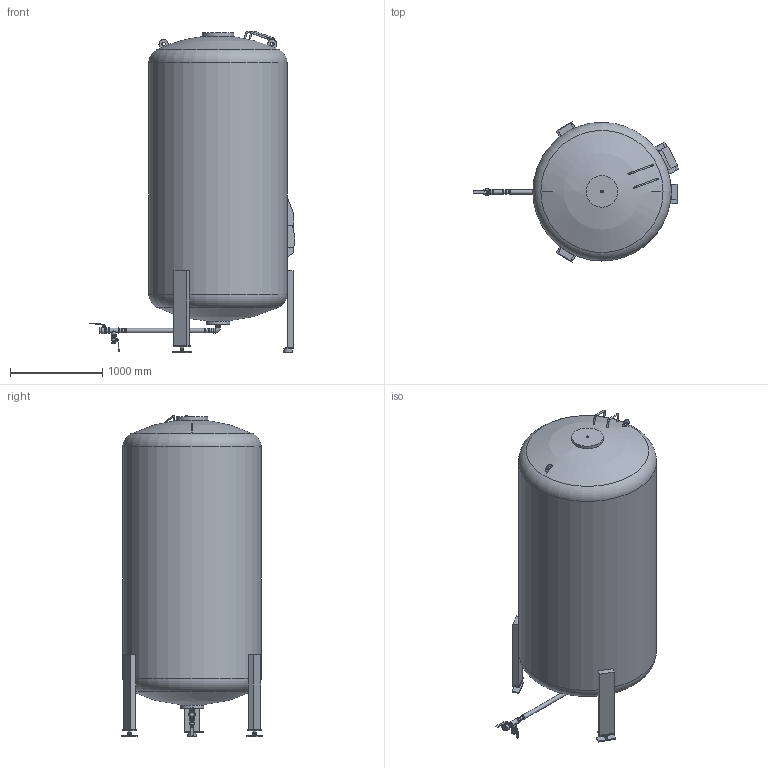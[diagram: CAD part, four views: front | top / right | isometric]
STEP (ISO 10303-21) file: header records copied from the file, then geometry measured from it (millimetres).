
FILE_DESCRIPTION(/* description */ (''),/* implementation_level */ '2;1');
FILE_NAME(/* name */ '\\dataserver\data\Flamco\3D-Modellen\Inventor\Flamcomat\2021_Flamcomat MK-U G4\flamcomat_mk-u_g4_5000_3.stp',/* time_stamp */ '2021-12-15T08:59:07+01:00',/* author */ ('kasius'),/* organization */ (''),/* preprocessor_version */ 'ST-DEVELOPER v17',/* originating_system */ 'Autodesk Inventor 2018',/* authorisation */ '');
FILE_SCHEMA (('AUTOMOTIVE_DESIGN { 1 0 10303 214 3 1 1 }'));
Length unit declared in the file: millimetre
Products named in the file (1): flamcomat_mk-u_g4_5000_3
Bounding box: 2228.53 x 1521.58 x 3492.77 mm (x, y, z)
Volume: 5170415047.7 mm3; surface area: 18287289.1 mm2
Topology: 6 solids, 6 shells, 320 faces, 857 edges, 599 vertices
Faces by surface type: plane 161, cylinder 86, cone 45, torus 24, sphere 4
Full cylindrical faces by diameter (mm): 9.5 x1, 12 x2, 16 x6, 18.3 x1, 18.331 x1, 20 x4, 21.939 x1, 25.4 x1, 26 x1, 28 x2, 30 x1, 30.289 x1, 32.99 x1, 34.594 x2, 36.906 x2, 37.998 x1, 38 x2, 40 x1, 40.768 x2, 41.7 x2, 43 x2, 44.85 x1, 44.999 x1, 45.999 x1, 46.1 x1, 46.845 x1, 47 x3, 48 x2, 48.008 x1, 48.3 x1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
Entity records: 10671 total; most frequent: CARTESIAN_POINT 2016, DIRECTION 1899, ORIENTED_EDGE 1714, EDGE_CURVE 857, AXIS2_PLACEMENT_3D 765, VERTEX_POINT 599, CIRCLE 442, EDGE_LOOP 374
